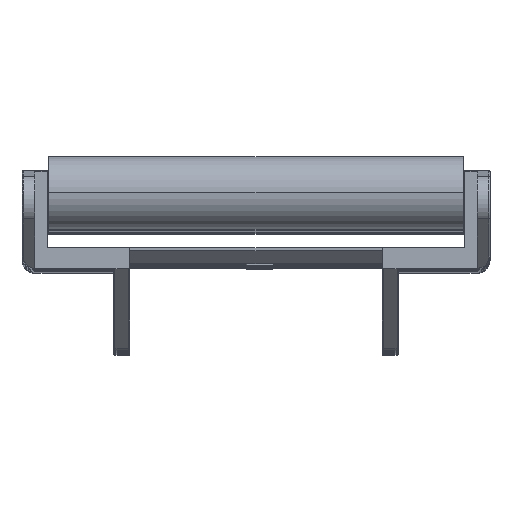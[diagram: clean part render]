
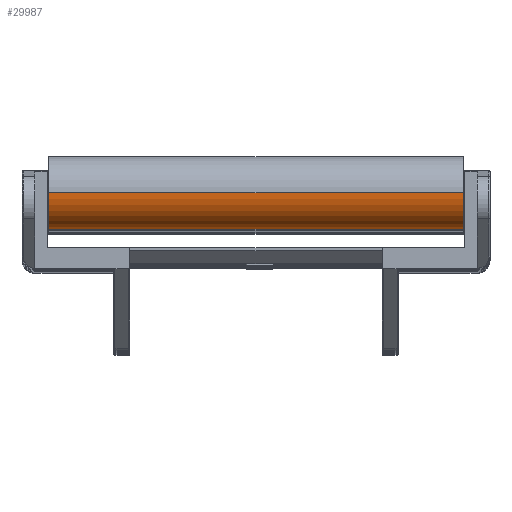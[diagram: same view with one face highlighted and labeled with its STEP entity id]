
A CAD part, top view. The second image highlights one B-rep face of the part: STEP entity #29987.
In plain terms, the highlighted cylindrical face has radius 5.75 mm (diameter 11.5 mm), a partial arc.
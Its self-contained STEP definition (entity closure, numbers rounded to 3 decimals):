
#24155=EDGE_CURVE('',#58897,#58898,#58899,.T.);
#29987=ADVANCED_FACE('',(#66823),#66824,.T.);
#34197=EDGE_CURVE('',#67631,#72042,#72043,.T.);
#41757=EDGE_CURVE('',#72042,#58898,#80781,.T.);
#58897=VERTEX_POINT('',#108444);
#58898=VERTEX_POINT('',#108445);
#58899=CIRCLE('',#108446,5.75);
#66823=FACE_OUTER_BOUND('',#122617,.T.);
#66824=CYLINDRICAL_SURFACE('',#122618,5.75);
#67631=VERTEX_POINT('',#123950);
#72042=VERTEX_POINT('',#131572);
#72043=CIRCLE('',#131573,5.75);
#80781=LINE('',#148336,#148337);
#108444=CARTESIAN_POINT('',(-32.75,24.975,407.25));
#108445=CARTESIAN_POINT('',(-32.75,19.225,401.5));
#108446=AXIS2_PLACEMENT_3D('',#166884,#166885,#166886);
#122617=EDGE_LOOP('',(#177279,#177280,#177281,#177282));
#122618=AXIS2_PLACEMENT_3D('',#177283,#177284,#177285);
#123950=CARTESIAN_POINT('',(32.75,24.975,407.25));
#131572=CARTESIAN_POINT('',(32.75,19.225,401.5));
#131573=AXIS2_PLACEMENT_3D('',#184169,#184170,#184171);
#148336=CARTESIAN_POINT('',(32.75,19.225,401.5));
#148337=VECTOR('',#196257,1.0);
#166884=CARTESIAN_POINT('',(-32.75,24.975,401.5));
#166885=DIRECTION('',(1.0,0.0,0.0));
#166886=DIRECTION('',(0.0,0.0,-1.0));
#177279=ORIENTED_EDGE('',*,*,#200158,.F.);
#177280=ORIENTED_EDGE('',*,*,#24155,.T.);
#177281=ORIENTED_EDGE('',*,*,#41757,.F.);
#177282=ORIENTED_EDGE('',*,*,#34197,.F.);
#177283=CARTESIAN_POINT('',(32.75,24.975,401.5));
#177284=DIRECTION('',(-1.0,0.0,0.0));
#177285=DIRECTION('',(0.0,0.0,-1.0));
#184169=CARTESIAN_POINT('',(32.75,24.975,401.5));
#184170=DIRECTION('',(1.0,0.0,0.0));
#184171=DIRECTION('',(0.0,0.0,-1.0));
#196257=DIRECTION('',(-1.0,0.0,0.0));
#200158=EDGE_CURVE('',#58897,#67631,#203908,.T.);
#203908=LINE('',#207688,#207689);
#207688=CARTESIAN_POINT('',(32.75,24.975,407.25));
#207689=VECTOR('',#209387,1.0);
#209387=DIRECTION('',(1.0,-0.0,-0.0));
